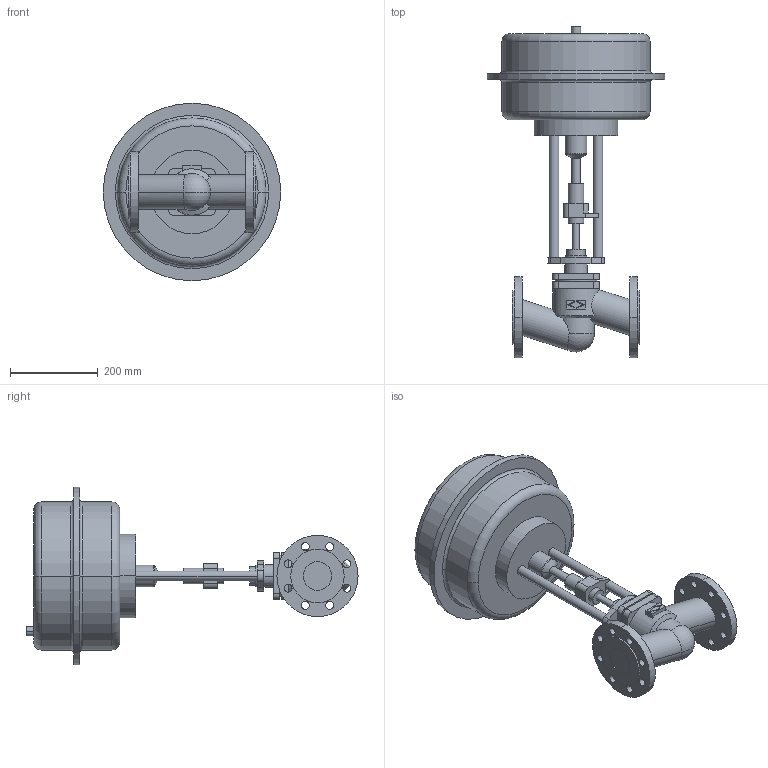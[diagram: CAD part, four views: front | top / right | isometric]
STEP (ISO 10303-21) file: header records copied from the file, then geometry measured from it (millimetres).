
FILE_DESCRIPTION(('OneSpaceDesigner STEP Export'),'2;1');
FILE_NAME('c000001495.stp','2005-02-15T 9:35:36',(''),(''),'OneSpace Designer STEP processor (Jan. 2003) for AP203(Solid Model)','OneSpace Designer 12.01D 09-Jul-2004 (C) CoCreate Software GmbH','');
FILE_SCHEMA(('CONFIG_CONTROL_DESIGN'));
Length unit declared in the file: millimetre
Products named in the file (2): 1; 2
Bounding box: 405 x 757.5 x 405 mm (x, y, z)
Volume: 22885481.8 mm3; surface area: 807030.8 mm2
Topology: 2 solids, 2 shells, 184 faces, 448 edges, 293 vertices
Faces by surface type: cylinder 100, plane 68, torus 10, cone 4, sphere 2
Entity records: 5287 total; most frequent: CARTESIAN_POINT 1088, ORIENTED_EDGE 892, DIRECTION 749, EDGE_CURVE 446, VERTEX_POINT 293, AXIS2_PLACEMENT_3D 271, EDGE_LOOP 243, VECTOR 207
